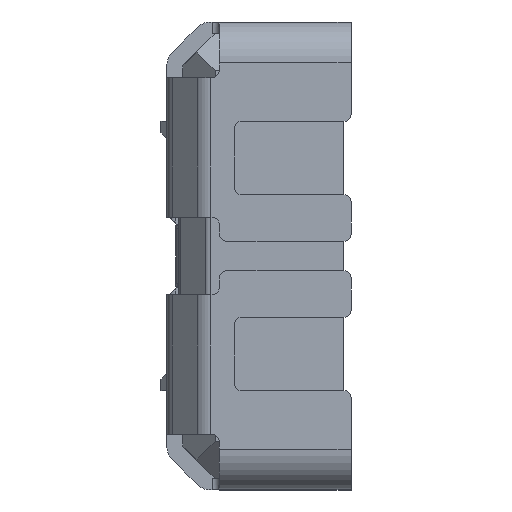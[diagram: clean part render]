
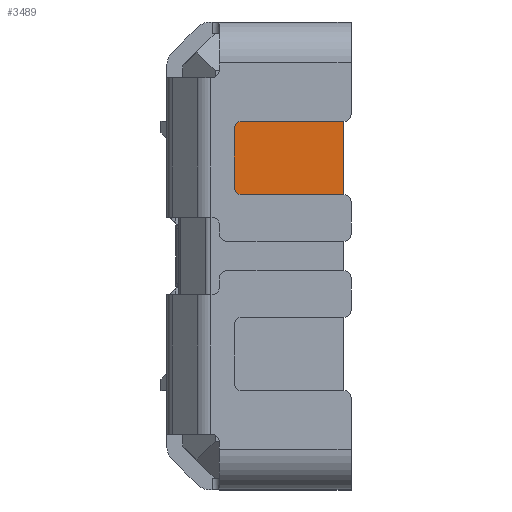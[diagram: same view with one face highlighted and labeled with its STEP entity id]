
A CAD part, left-side view. The second image highlights one B-rep face of the part: STEP entity #3489.
In plain terms, the highlighted planar face has unit normal (-1, 0, 0).
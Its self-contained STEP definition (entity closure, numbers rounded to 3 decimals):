
#89 = VERTEX_POINT ( 'NONE', #21079 ) ;
#120 = CARTESIAN_POINT ( 'NONE',  ( -1.37, 0.75, 0.47 ) ) ;
#212 = DIRECTION ( 'NONE',  ( 0., -1., 0. ) ) ;
#458 = DIRECTION ( 'NONE',  ( -1., 0., 0. ) ) ;
#585 = EDGE_LOOP ( 'NONE', ( #2757, #11219, #21977, #30650, #26834, #25598 ) ) ;
#710 = VERTEX_POINT ( 'NONE', #9860 ) ;
#2309 = DIRECTION ( 'NONE',  ( -1., 0., 0. ) ) ;
#2757 = ORIENTED_EDGE ( 'NONE', *, *, #30010, .T. ) ;
#3489 = ADVANCED_FACE ( 'NONE', ( #31876 ), #16418, .T. ) ;
#3767 = DIRECTION ( 'NONE',  ( -1., 0., 0. ) ) ;
#3772 = LINE ( 'NONE', #21750, #24346 ) ;
#5740 = DIRECTION ( 'NONE',  ( 0., 1., 0. ) ) ;
#9083 = CARTESIAN_POINT ( 'NONE',  ( -1.37, 1.18, -0.385 ) ) ;
#9105 = CARTESIAN_POINT ( 'NONE',  ( -1.37, 0.75, 0.42 ) ) ;
#9860 = CARTESIAN_POINT ( 'NONE',  ( -1.37, 0.05, 0.42 ) ) ;
#11219 = ORIENTED_EDGE ( 'NONE', *, *, #26712, .F. ) ;
#11805 = VECTOR ( 'NONE', #26408, 1000. ) ;
#12347 = EDGE_CURVE ( 'NONE', #14938, #19366, #3772, .T. ) ;
#12690 = LINE ( 'NONE', #12850, #26723 ) ;
#12850 = CARTESIAN_POINT ( 'NONE',  ( -1.37, 0.05, 0.42 ) ) ;
#13306 = CARTESIAN_POINT ( 'NONE',  ( -1.37, 0.75, 0.92 ) ) ;
#13818 = AXIS2_PLACEMENT_3D ( 'NONE', #21511, #2309, #26663 ) ;
#13911 = DIRECTION ( 'NONE',  ( 0., 0., 1. ) ) ;
#14938 = VERTEX_POINT ( 'NONE', #17152 ) ;
#15420 = EDGE_CURVE ( 'NONE', #19366, #31102, #30173, .T. ) ;
#15440 = DIRECTION ( 'NONE',  ( 0., 0., -1. ) ) ;
#15834 = AXIS2_PLACEMENT_3D ( 'NONE', #120, #458, #15440 ) ;
#16418 = PLANE ( 'NONE',  #24274 ) ;
#17152 = CARTESIAN_POINT ( 'NONE',  ( -1.37, 0.8, 0.87 ) ) ;
#17695 = EDGE_CURVE ( 'NONE', #29293, #14938, #22855, .T. ) ;
#19251 = DIRECTION ( 'NONE',  ( 0., 0., -1. ) ) ;
#19366 = VERTEX_POINT ( 'NONE', #22967 ) ;
#19937 = EDGE_CURVE ( 'NONE', #89, #29293, #29174, .T. ) ;
#21079 = CARTESIAN_POINT ( 'NONE',  ( -1.37, 0.05, 0.92 ) ) ;
#21433 = LINE ( 'NONE', #31240, #11805 ) ;
#21511 = CARTESIAN_POINT ( 'NONE',  ( -1.37, 0.75, 0.87 ) ) ;
#21750 = CARTESIAN_POINT ( 'NONE',  ( -1.37, 0.8, 0.47 ) ) ;
#21977 = ORIENTED_EDGE ( 'NONE', *, *, #19937, .T. ) ;
#22855 = CIRCLE ( 'NONE', #13818, 0.05 ) ;
#22967 = CARTESIAN_POINT ( 'NONE',  ( -1.37, 0.8, 0.47 ) ) ;
#24274 = AXIS2_PLACEMENT_3D ( 'NONE', #9083, #3767, #13911 ) ;
#24346 = VECTOR ( 'NONE', #19251, 1000. ) ;
#25598 = ORIENTED_EDGE ( 'NONE', *, *, #15420, .T. ) ;
#26408 = DIRECTION ( 'NONE',  ( 0., 0., -1. ) ) ;
#26663 = DIRECTION ( 'NONE',  ( 0., 0., -1. ) ) ;
#26712 = EDGE_CURVE ( 'NONE', #89, #710, #21433, .T. ) ;
#26723 = VECTOR ( 'NONE', #212, 1000. ) ;
#26834 = ORIENTED_EDGE ( 'NONE', *, *, #12347, .T. ) ;
#27243 = VECTOR ( 'NONE', #5740, 1000. ) ;
#28848 = CARTESIAN_POINT ( 'NONE',  ( -1.37, 0.75, 0.92 ) ) ;
#29174 = LINE ( 'NONE', #28848, #27243 ) ;
#29293 = VERTEX_POINT ( 'NONE', #13306 ) ;
#30010 = EDGE_CURVE ( 'NONE', #31102, #710, #12690, .T. ) ;
#30173 = CIRCLE ( 'NONE', #15834, 0.05 ) ;
#30650 = ORIENTED_EDGE ( 'NONE', *, *, #17695, .T. ) ;
#31102 = VERTEX_POINT ( 'NONE', #9105 ) ;
#31240 = CARTESIAN_POINT ( 'NONE',  ( -1.37, 0.05, -0.385 ) ) ;
#31876 = FACE_OUTER_BOUND ( 'NONE', #585, .T. ) ;
